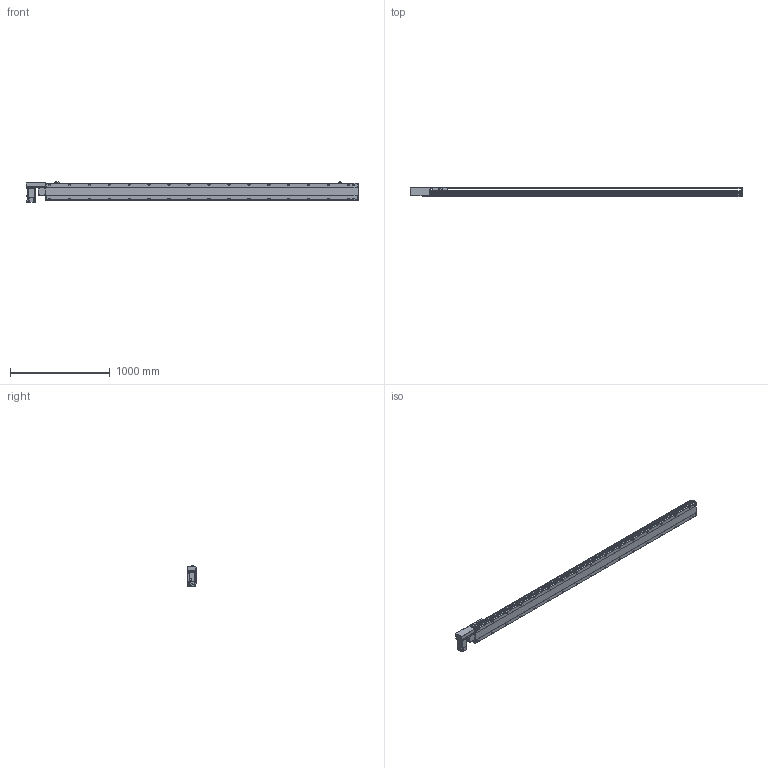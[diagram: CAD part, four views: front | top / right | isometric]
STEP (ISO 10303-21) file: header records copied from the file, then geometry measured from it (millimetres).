
FILE_DESCRIPTION( ( 'STEP AP214' ), '1' );
FILE_NAME( 'x:/temp/worker_4/temp/exporttempdir_2248_299_xaJui/format_0/PBS170-P40-S2850-R-T75-C1-N(0).stp', '2022-06-07T07:33:13', ( 'License CC BY-ND 4.0' ), ( 'CADENAS' ), ' ', 'PARTsolutions', ' ' );
FILE_SCHEMA( ( 'AUTOMOTIVE_DESIGN { 1 0 10303 214 1 1 1 1 }' ) );
Length unit declared in the file: millimetre
Products named in the file (7): PBS170-P40-S2850-R-T75-C1-N(0); _PBS170-S2850()_body; _PBS170T-R_motors; _T75-p1; _PBS170_sliser; _PBS170_plant; _PBS170_sensor
Assembly tree (8 placements, depth 2):
  PBS170-P40-S2850-R-T75-C1-N(0)
    _PBS170-S2850()_body
    _PBS170T-R_motors
    _T75-p1
    _PBS170_sliser
    _PBS170_plant
    _PBS170_sensor  x3
Bounding box: 3328 x 97 x 205.3 mm (x, y, z)
Volume: 24169487 mm3; surface area: 3031626.1 mm2
Topology: 8 solids, 8 shells, 1226 faces, 3235 edges, 2108 vertices
Faces by surface type: plane 741, cylinder 411, cone 64, sphere 8, torus 2
Full cylindrical faces by diameter (mm): 3.242 x4, 4 x2, 4.4 x4, 4.5 x6, 4.917 x4, 6 x9, 6.647 x42, 7 x2, 7.5 x4, 8 x8, 8.5 x34, 10 x4, 10.5 x34, 11 x2, 30 x2, 40 x1, 70 x1
Entity records: 45518 total; most frequent: CARTESIAN_POINT 7733, DIRECTION 5930, ORIENTED_EDGE 5568, EDGE_CURVE 2784, AXIS2_PLACEMENT_3D 2107, VERTEX_POINT 1946, LINE 1716, VECTOR 1716
